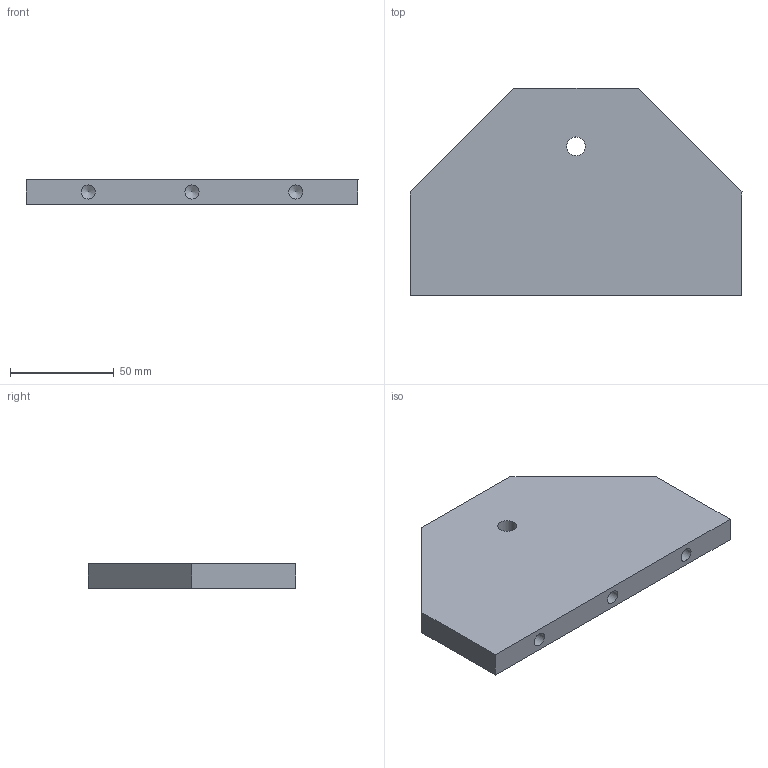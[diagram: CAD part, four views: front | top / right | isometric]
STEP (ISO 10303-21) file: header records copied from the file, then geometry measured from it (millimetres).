
FILE_DESCRIPTION(/* description */ (''),/* implementation_level */ '2;1');
FILE_NAME(/* name */ 'Pos152-Plaatwerk D= 12-Aluminium-13st',/* time_stamp */ '2024-08-06T11:49:43+02:00',/* author */ (''),/* organization */ (''),/* preprocessor_version */ 'ST-DEVELOPER v16.5',/* originating_system */ 'HiCAD 2024 2901.2 Build 361',/* authorisation */ '');
FILE_SCHEMA (('AUTOMOTIVE_DESIGN { 1 0 10303 214 1 1 1 1 }'));
Length unit declared in the file: millimetre
Products named in the file (1): Pos152-Plaatwerk D= 12-Aluminium-13st
Bounding box: 160 x 100 x 12 mm (x, y, z)
Volume: 158449.6 mm3; surface area: 34075.9 mm2
Topology: 1 solids, 1 shells, 16 faces, 42 edges, 29 vertices
Faces by surface type: plane 8, cylinder 4, cone 4
Full cylindrical faces by diameter (mm): 6.8 x3, 9 x1
Entity records: 698 total; most frequent: DIRECTION 68, CARTESIAN_POINT 68, PRESENTATION_STYLE_ASSIGNMENT 55, COLOUR_RGB 55, DRAUGHTING_PRE_DEFINED_CURVE_FONT 54, CURVE_STYLE 54, OVER_RIDING_STYLED_ITEM 54, ORIENTED_EDGE 54
